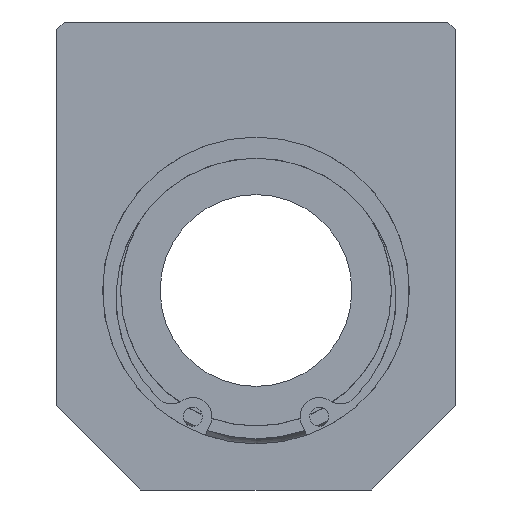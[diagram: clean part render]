
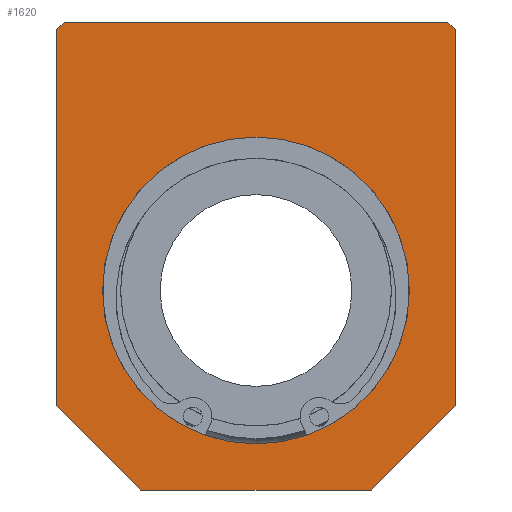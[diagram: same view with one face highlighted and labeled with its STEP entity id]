
A CAD part, left-side view. The second image highlights one B-rep face of the part: STEP entity #1620.
In plain terms, the highlighted planar face has unit normal (-1, 0, 0).
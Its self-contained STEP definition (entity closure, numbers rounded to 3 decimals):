
#1522=CARTESIAN_POINT('',(0.0,-25.0,35.));
#1523=VERTEX_POINT('',#1522);
#1530=CARTESIAN_POINT('',(0.0,-26.,34.));
#1531=VERTEX_POINT('',#1530);
#1532=CARTESIAN_POINT('',(0.0,-25.0,35.));
#1533=DIRECTION('',(0.0,-0.707,-0.707));
#1534=VECTOR('',#1533,1.414);
#1535=LINE('',#1532,#1534);
#1536=EDGE_CURVE('',#1523,#1531,#1535,.T.);
#1547=CARTESIAN_POINT('',(0.0,0.,4.5));
#1548=DIRECTION('',(1.0,0.0,0.0));
#1549=DIRECTION('',(0.0,0.0,-1.0));
#1550=AXIS2_PLACEMENT_3D('',#1547,#1548,#1549);
#1551=PLANE('',#1550);
#1552=ORIENTED_EDGE('',*,*,#1536,.F.);
#1553=CARTESIAN_POINT('',(0.0,25.0,35.));
#1554=VERTEX_POINT('',#1553);
#1555=CARTESIAN_POINT('',(0.0,-25.0,35.));
#1556=DIRECTION('',(0.0,1.0,0.0));
#1557=VECTOR('',#1556,50.0);
#1558=LINE('',#1555,#1557);
#1559=EDGE_CURVE('',#1523,#1554,#1558,.T.);
#1560=ORIENTED_EDGE('',*,*,#1559,.T.);
#1561=CARTESIAN_POINT('',(0.0,26.,34.));
#1562=VERTEX_POINT('',#1561);
#1563=CARTESIAN_POINT('',(0.0,26.,34.));
#1564=DIRECTION('',(0.0,-0.707,0.707));
#1565=VECTOR('',#1564,1.414);
#1566=LINE('',#1563,#1565);
#1567=EDGE_CURVE('',#1562,#1554,#1566,.T.);
#1568=ORIENTED_EDGE('',*,*,#1567,.F.);
#1569=CARTESIAN_POINT('',(0.0,26.,-15.));
#1570=VERTEX_POINT('',#1569);
#1571=CARTESIAN_POINT('',(0.0,26.,34.));
#1572=DIRECTION('',(0.0,0.0,-1.0));
#1573=VECTOR('',#1572,49.);
#1574=LINE('',#1571,#1573);
#1575=EDGE_CURVE('',#1562,#1570,#1574,.T.);
#1576=ORIENTED_EDGE('',*,*,#1575,.T.);
#1577=CARTESIAN_POINT('',(0.0,15.,-26.));
#1578=VERTEX_POINT('',#1577);
#1579=CARTESIAN_POINT('',(0.0,15.,-26.));
#1580=DIRECTION('',(0.0,0.707,0.707));
#1581=VECTOR('',#1580,15.556);
#1582=LINE('',#1579,#1581);
#1583=EDGE_CURVE('',#1578,#1570,#1582,.T.);
#1584=ORIENTED_EDGE('',*,*,#1583,.F.);
#1585=CARTESIAN_POINT('',(0.0,-15.,-26.));
#1586=VERTEX_POINT('',#1585);
#1587=CARTESIAN_POINT('',(0.0,15.,-26.));
#1588=DIRECTION('',(0.0,-1.0,0.0));
#1589=VECTOR('',#1588,30.);
#1590=LINE('',#1587,#1589);
#1591=EDGE_CURVE('',#1578,#1586,#1590,.T.);
#1592=ORIENTED_EDGE('',*,*,#1591,.T.);
#1593=CARTESIAN_POINT('',(0.0,-26.,-15.));
#1594=VERTEX_POINT('',#1593);
#1595=CARTESIAN_POINT('',(0.0,-26.,-15.));
#1596=DIRECTION('',(0.0,0.707,-0.707));
#1597=VECTOR('',#1596,15.556);
#1598=LINE('',#1595,#1597);
#1599=EDGE_CURVE('',#1594,#1586,#1598,.T.);
#1600=ORIENTED_EDGE('',*,*,#1599,.F.);
#1601=CARTESIAN_POINT('',(0.0,-26.,-15.));
#1602=DIRECTION('',(0.0,0.0,1.0));
#1603=VECTOR('',#1602,49.);
#1604=LINE('',#1601,#1603);
#1605=EDGE_CURVE('',#1594,#1531,#1604,.T.);
#1606=ORIENTED_EDGE('',*,*,#1605,.T.);
#1607=EDGE_LOOP('',(#1552,#1560,#1568,#1576,#1584,#1592,#1600,#1606));
#1608=FACE_OUTER_BOUND('',#1607,.T.);
#1609=CARTESIAN_POINT('',(0.0,20.0,0.));
#1610=VERTEX_POINT('',#1609);
#1611=CARTESIAN_POINT('',(0.0,0.0,0.0));
#1612=DIRECTION('',(1.0,0.0,0.0));
#1613=DIRECTION('',(0.0,-1.0,0.0));
#1614=AXIS2_PLACEMENT_3D('',#1611,#1612,#1613);
#1615=CIRCLE('',#1614,20.0);
#1616=EDGE_CURVE('',#1610,#1610,#1615,.T.);
#1617=ORIENTED_EDGE('',*,*,#1616,.T.);
#1618=EDGE_LOOP('',(#1617));
#1619=FACE_BOUND('',#1618,.T.);
#1620=ADVANCED_FACE('',(#1608,#1619),#1551,.F.);
